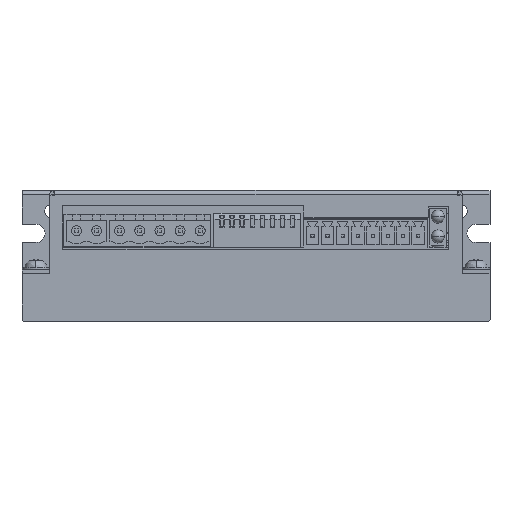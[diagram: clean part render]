
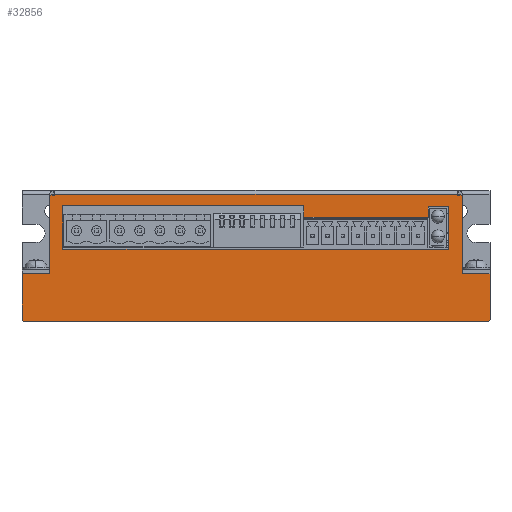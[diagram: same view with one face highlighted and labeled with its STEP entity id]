
A CAD part, top view. The second image highlights one B-rep face of the part: STEP entity #32856.
In plain terms, the highlighted planar face has unit normal (0, 0, 1).
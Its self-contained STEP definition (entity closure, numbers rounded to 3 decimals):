
#5=DIRECTION('',(0.,1.,0.));
#6=VECTOR('',#5,11.5);
#7=CARTESIAN_POINT('',(-59.,-16.,38.));
#8=LINE('',#7,#6);
#2963=DIRECTION('',(1.,0.,0.));
#2964=VECTOR('',#2963,7.);
#2965=CARTESIAN_POINT('',(52.,-4.5,38.));
#2966=LINE('',#2965,#2964);
#2979=DIRECTION('',(1.,0.,0.));
#2980=VECTOR('',#2979,7.);
#2981=CARTESIAN_POINT('',(-59.,-4.5,38.));
#2982=LINE('',#2981,#2980);
#6859=DIRECTION('',(0.,1.,0.));
#6860=VECTOR('',#6859,11.5);
#6861=CARTESIAN_POINT('',(59.,-16.,38.));
#6862=LINE('',#6861,#6860);
#7471=DIRECTION('',(0.,-1.,0.));
#7472=VECTOR('',#7471,19.8);
#7473=CARTESIAN_POINT('',(-52.,15.3,38.));
#7474=LINE('',#7473,#7472);
#7475=DIRECTION('',(-1.,0.,0.));
#7476=VECTOR('',#7475,1.2);
#7477=CARTESIAN_POINT('',(-50.8,15.3,38.));
#7478=LINE('',#7477,#7476);
#7479=DIRECTION('',(0.,-1.,0.));
#7480=VECTOR('',#7479,0.2);
#7481=CARTESIAN_POINT('',(-50.8,15.5,38.));
#7482=LINE('',#7481,#7480);
#7483=DIRECTION('',(0.,-1.,0.));
#7484=VECTOR('',#7483,0.2);
#7485=CARTESIAN_POINT('',(50.8,15.5,38.));
#7486=LINE('',#7485,#7484);
#7487=DIRECTION('',(-1.,0.,0.));
#7488=VECTOR('',#7487,1.2);
#7489=CARTESIAN_POINT('',(52.,15.3,38.));
#7490=LINE('',#7489,#7488);
#7491=DIRECTION('',(0.,1.,0.));
#7492=VECTOR('',#7491,19.8);
#7493=CARTESIAN_POINT('',(52.,-4.5,38.));
#7494=LINE('',#7493,#7492);
#7495=DIRECTION('',(-0.707,-0.707,0.));
#7496=VECTOR('',#7495,0.707);
#7497=CARTESIAN_POINT('',(59.,-16.,38.));
#7498=LINE('',#7497,#7496);
#7499=DIRECTION('',(1.,0.,0.));
#7500=VECTOR('',#7499,117.);
#7501=CARTESIAN_POINT('',(-58.5,-16.5,38.));
#7502=LINE('',#7501,#7500);
#7503=DIRECTION('',(-0.707,0.707,0.));
#7504=VECTOR('',#7503,0.707);
#7505=CARTESIAN_POINT('',(-58.5,-16.5,38.));
#7506=LINE('',#7505,#7504);
#7507=DIRECTION('',(0.,-1.,0.));
#7508=VECTOR('',#7507,2.9);
#7509=CARTESIAN_POINT('',(12.1,12.6,38.));
#7510=LINE('',#7509,#7508);
#7511=DIRECTION('',(1.,0.,0.));
#7512=VECTOR('',#7511,60.8);
#7513=CARTESIAN_POINT('',(-48.7,12.6,38.));
#7514=LINE('',#7513,#7512);
#7515=DIRECTION('',(0.,1.,0.));
#7516=VECTOR('',#7515,11.);
#7517=CARTESIAN_POINT('',(-48.7,1.6,38.));
#7518=LINE('',#7517,#7516);
#7519=DIRECTION('',(-1.,0.,0.));
#7520=VECTOR('',#7519,97.3);
#7521=CARTESIAN_POINT('',(48.6,1.6,38.));
#7522=LINE('',#7521,#7520);
#7523=DIRECTION('',(0.,-1.,0.));
#7524=VECTOR('',#7523,10.7);
#7525=CARTESIAN_POINT('',(48.6,12.3,38.));
#7526=LINE('',#7525,#7524);
#7527=DIRECTION('',(1.,0.,0.));
#7528=VECTOR('',#7527,5.2);
#7529=CARTESIAN_POINT('',(43.4,12.3,38.));
#7530=LINE('',#7529,#7528);
#7531=DIRECTION('',(0.,1.,0.));
#7532=VECTOR('',#7531,2.6);
#7533=CARTESIAN_POINT('',(43.4,9.7,38.));
#7534=LINE('',#7533,#7532);
#7535=DIRECTION('',(1.,0.,0.));
#7536=VECTOR('',#7535,31.3);
#7537=CARTESIAN_POINT('',(12.1,9.7,38.));
#7538=LINE('',#7537,#7536);
#7670=DIRECTION('',(-1.,0.,0.));
#7671=VECTOR('',#7670,101.6);
#7672=CARTESIAN_POINT('',(50.8,15.5,38.));
#7673=LINE('',#7672,#7671);
#25602=CARTESIAN_POINT('',(59.,-16.,38.));
#25604=VERTEX_POINT('',#25602);
#25610=CARTESIAN_POINT('',(58.5,-16.5,38.));
#25611=VERTEX_POINT('',#25610);
#25612=CARTESIAN_POINT('',(59.,-4.5,38.));
#25613=VERTEX_POINT('',#25612);
#25620=CARTESIAN_POINT('',(-58.5,-16.5,38.));
#25621=VERTEX_POINT('',#25620);
#25689=CARTESIAN_POINT('',(-59.,-16.,38.));
#25691=VERTEX_POINT('',#25689);
#25692=CARTESIAN_POINT('',(-59.,-4.5,38.));
#25693=VERTEX_POINT('',#25692);
#25720=CARTESIAN_POINT('',(50.8,15.5,38.));
#25721=CARTESIAN_POINT('',(50.8,15.3,38.));
#25722=VERTEX_POINT('',#25720);
#25723=VERTEX_POINT('',#25721);
#25724=CARTESIAN_POINT('',(-50.8,15.5,38.));
#25725=CARTESIAN_POINT('',(-50.8,15.3,38.));
#25726=VERTEX_POINT('',#25724);
#25727=VERTEX_POINT('',#25725);
#25728=CARTESIAN_POINT('',(52.,15.3,38.));
#25729=VERTEX_POINT('',#25728);
#25730=CARTESIAN_POINT('',(-52.,15.3,38.));
#25731=VERTEX_POINT('',#25730);
#25840=CARTESIAN_POINT('',(12.1,12.6,38.));
#25841=CARTESIAN_POINT('',(12.1,9.7,38.));
#25842=VERTEX_POINT('',#25840);
#25843=VERTEX_POINT('',#25841);
#25844=CARTESIAN_POINT('',(48.6,12.3,38.));
#25845=CARTESIAN_POINT('',(48.6,1.6,38.));
#25846=VERTEX_POINT('',#25844);
#25847=VERTEX_POINT('',#25845);
#25848=CARTESIAN_POINT('',(-48.7,1.6,38.));
#25849=VERTEX_POINT('',#25848);
#25854=CARTESIAN_POINT('',(43.4,12.3,38.));
#25855=VERTEX_POINT('',#25854);
#25860=CARTESIAN_POINT('',(43.4,9.7,38.));
#25861=VERTEX_POINT('',#25860);
#26224=CARTESIAN_POINT('',(-48.7,12.6,38.));
#26225=VERTEX_POINT('',#26224);
#26320=CARTESIAN_POINT('',(-52.,-4.5,38.));
#26321=VERTEX_POINT('',#26320);
#26322=CARTESIAN_POINT('',(52.,-4.5,38.));
#26323=VERTEX_POINT('',#26322);
#32808=CARTESIAN_POINT('',(-59.,-16.5,38.));
#32809=DIRECTION('',(0.,0.,1.));
#32810=DIRECTION('',(0.,1.,0.));
#32811=AXIS2_PLACEMENT_3D('',#32808,#32809,#32810);
#32812=PLANE('',#32811);
#32813=ORIENTED_EDGE('',*,*,#30227,.T.);
#32815=ORIENTED_EDGE('',*,*,#32814,.F.);
#32817=ORIENTED_EDGE('',*,*,#32816,.F.);
#32819=ORIENTED_EDGE('',*,*,#32818,.F.);
#32821=ORIENTED_EDGE('',*,*,#32820,.F.);
#32822=ORIENTED_EDGE('',*,*,#32798,.T.);
#32824=ORIENTED_EDGE('',*,*,#32823,.F.);
#32826=ORIENTED_EDGE('',*,*,#32825,.F.);
#32827=ORIENTED_EDGE('',*,*,#30219,.T.);
#32828=ORIENTED_EDGE('',*,*,#32264,.F.);
#32830=ORIENTED_EDGE('',*,*,#32829,.T.);
#32832=ORIENTED_EDGE('',*,*,#32831,.F.);
#32834=ORIENTED_EDGE('',*,*,#32833,.T.);
#32835=ORIENTED_EDGE('',*,*,#28931,.T.);
#32836=EDGE_LOOP('',(#32813,#32815,#32817,#32819,#32821,#32822,#32824,#32826,
#32827,#32828,#32830,#32832,#32834,#32835));
#32837=FACE_OUTER_BOUND('',#32836,.F.);
#32839=ORIENTED_EDGE('',*,*,#32838,.F.);
#32841=ORIENTED_EDGE('',*,*,#32840,.F.);
#32843=ORIENTED_EDGE('',*,*,#32842,.F.);
#32845=ORIENTED_EDGE('',*,*,#32844,.F.);
#32847=ORIENTED_EDGE('',*,*,#32846,.F.);
#32849=ORIENTED_EDGE('',*,*,#32848,.F.);
#32851=ORIENTED_EDGE('',*,*,#32850,.F.);
#32853=ORIENTED_EDGE('',*,*,#32852,.F.);
#32854=EDGE_LOOP('',(#32839,#32841,#32843,#32845,#32847,#32849,#32851,#32853));
#32855=FACE_BOUND('',#32854,.F.);
#32856=ADVANCED_FACE('',(#32837,#32855),#32812,.T.);
#28931=EDGE_CURVE('',#25691,#25693,#8,.T.);
#30219=EDGE_CURVE('',#26323,#25613,#2966,.T.);
#30227=EDGE_CURVE('',#25693,#26321,#2982,.T.);
#32264=EDGE_CURVE('',#25604,#25613,#6862,.T.);
#32798=EDGE_CURVE('',#25722,#25723,#7486,.T.);
#32814=EDGE_CURVE('',#25731,#26321,#7474,.T.);
#32816=EDGE_CURVE('',#25727,#25731,#7478,.T.);
#32818=EDGE_CURVE('',#25726,#25727,#7482,.T.);
#32820=EDGE_CURVE('',#25722,#25726,#7673,.T.);
#32823=EDGE_CURVE('',#25729,#25723,#7490,.T.);
#32825=EDGE_CURVE('',#26323,#25729,#7494,.T.);
#32829=EDGE_CURVE('',#25604,#25611,#7498,.T.);
#32831=EDGE_CURVE('',#25621,#25611,#7502,.T.);
#32833=EDGE_CURVE('',#25621,#25691,#7506,.T.);
#32838=EDGE_CURVE('',#25842,#25843,#7510,.T.);
#32840=EDGE_CURVE('',#26225,#25842,#7514,.T.);
#32842=EDGE_CURVE('',#25849,#26225,#7518,.T.);
#32844=EDGE_CURVE('',#25847,#25849,#7522,.T.);
#32846=EDGE_CURVE('',#25846,#25847,#7526,.T.);
#32848=EDGE_CURVE('',#25855,#25846,#7530,.T.);
#32850=EDGE_CURVE('',#25861,#25855,#7534,.T.);
#32852=EDGE_CURVE('',#25843,#25861,#7538,.T.);
